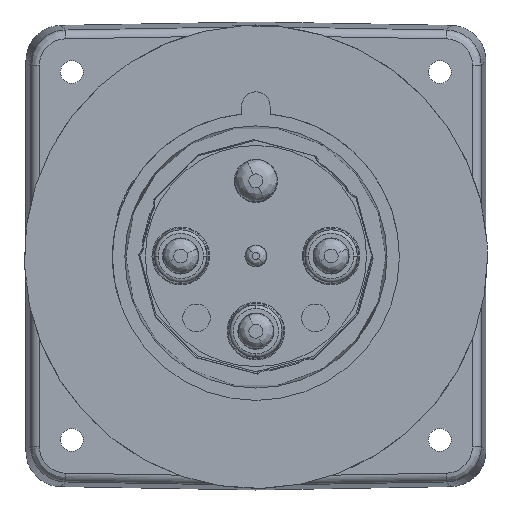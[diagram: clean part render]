
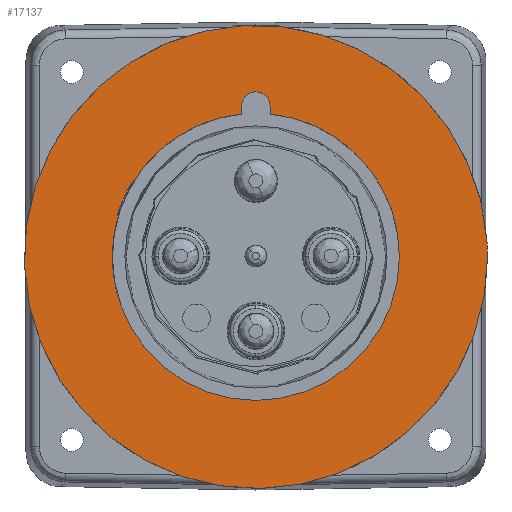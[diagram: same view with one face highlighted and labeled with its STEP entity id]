
A CAD part, front view. The second image highlights one B-rep face of the part: STEP entity #17137.
In plain terms, the highlighted planar face has unit normal (0, -1, 0).
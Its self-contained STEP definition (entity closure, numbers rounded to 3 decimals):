
#422=CARTESIAN_POINT('',(0.,-20.6,0.));
#423=DIRECTION('',(0.,-1.,0.));
#424=DIRECTION('',(1.,0.,0.));
#425=AXIS2_PLACEMENT_3D('',#422,#423,#424);
#588=CARTESIAN_POINT('',(0.,-20.6,0.));
#589=DIRECTION('',(0.,-1.,0.));
#590=DIRECTION('',(1.,0.,0.));
#591=AXIS2_PLACEMENT_3D('',#588,#589,#590);
#603=CARTESIAN_POINT('',(0.,-20.6,0.));
#604=DIRECTION('',(0.,-1.,0.));
#605=DIRECTION('',(0.997,0.,0.076));
#606=AXIS2_PLACEMENT_3D('',#603,#604,#605);
#11830=CARTESIAN_POINT('',(0.,-20.6,0.));
#11831=DIRECTION('',(0.,-1.,0.));
#11832=DIRECTION('',(-1.,0.,0.));
#11833=AXIS2_PLACEMENT_3D('',#11830,#11831,#11832);
#16347=CARTESIAN_POINT('',(65.45,-20.6,0.));
#16348=CARTESIAN_POINT('',(65.259,-20.6,5.));
#16349=VERTEX_POINT('',#16347);
#16350=VERTEX_POINT('',#16348);
#16617=CARTESIAN_POINT('',(40.55,-20.6,0.));
#16618=CARTESIAN_POINT('',(-40.55,-20.6,0.));
#16619=VERTEX_POINT('',#16617);
#16620=VERTEX_POINT('',#16618);
#17121=CARTESIAN_POINT('',(0.,-20.6,0.));
#17122=DIRECTION('',(0.,-1.,0.));
#17123=DIRECTION('',(-1.,0.,0.));
#17124=AXIS2_PLACEMENT_3D('',#17121,#17122,#17123);
#17125=PLANE('477',#17124);
#17127=ORIENTED_EDGE('1859',*,*,#17126,.F.);
#17129=ORIENTED_EDGE('1857',*,*,#17128,.F.);
#17130=EDGE_LOOP('477',(#17127,#17129));
#17131=FACE_OUTER_BOUND('477',#17130,.F.);
#17132=ORIENTED_EDGE('2235',*,*,#17036,.T.);
#17134=ORIENTED_EDGE('2236',*,*,#17133,.T.);
#17135=EDGE_LOOP('477',(#17132,#17134));
#17136=FACE_BOUND('477',#17135,.F.);
#426=CIRCLE('2235',#425,40.55);
#592=CIRCLE('1857',#591,65.45);
#607=CIRCLE('1859',#606,65.45);
#11834=CIRCLE('2236',#11833,40.55);
#17036=EDGE_CURVE('2235',#16619,#16620,#426,.T.);
#17126=EDGE_CURVE('1859',#16350,#16349,#607,.T.);
#17128=EDGE_CURVE('1857',#16349,#16350,#592,.T.);
#17133=EDGE_CURVE('2236',#16620,#16619,#11834,.T.);
#17137=ADVANCED_FACE('477',(#17131,#17136),#17125,.T.);
